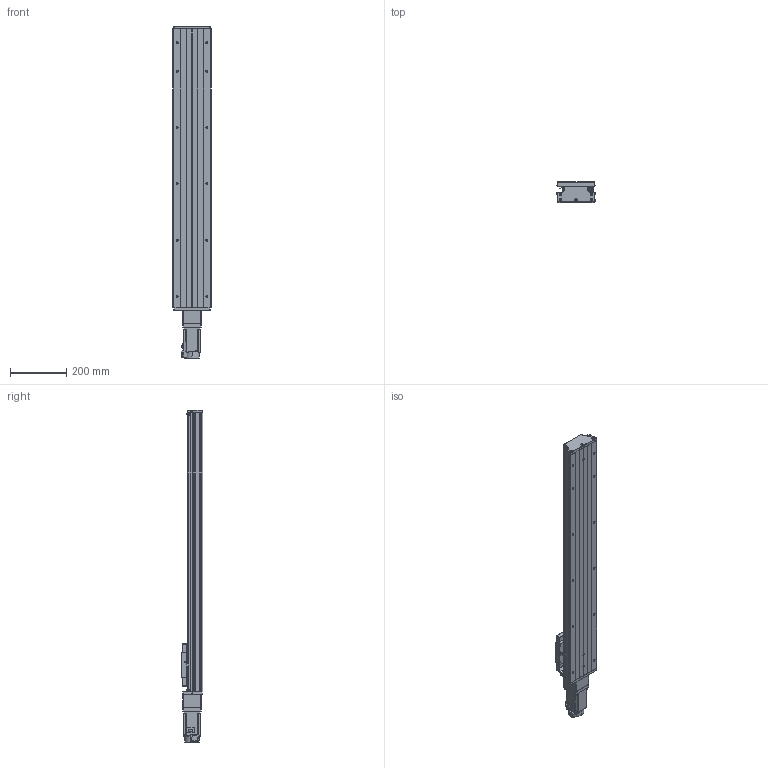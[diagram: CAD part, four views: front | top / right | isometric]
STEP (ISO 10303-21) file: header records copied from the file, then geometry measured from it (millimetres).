
FILE_DESCRIPTION (( 'STEP AP203' ), '1' );
FILE_NAME ('CTH130-800-BC-M40-C4.step', '2023-06-30T02:34:35', ( '微软用户' ), ( '微软中国' ), 'SwSTEP 2.0', 'SolidWorks 2020', '' );
FILE_SCHEMA (( 'CONFIG_CONTROL_DESIGN' ));
Length unit declared in the file: millimetre
Products named in the file (21): CTHA86-027-1; CTH130-800-BC-M40-C4; GTH14-005; GBT77-2000 M3×3; GBT 70.3-M3℅8; GB1155-6X6; CTH130-031; HG-KN43J-S100; GBT70.1 M5℅16; GBT 70.2-M3¡Á5_M3¡Á6; GTH14-001_800; CTHA60-017; す晦芛蹟隊 M3℅5; CTH130-002_GTH14-002; EE_SX911P_R; CTHA86-006-1_M40; GB T308.1-2013-6.35; CTHA60-016; CTHA86-013; GTH14-004; GBT 70.1-M3℅5
Assembly tree (59 placements, depth 2):
  CTH130-800-BC-M40-C4
    GTH14-001_800
    CTH130-002_GTH14-002
    GB T308.1-2013-6.35  x2
    GTH14-004
    GTH14-005
    GB1155-6X6  x2
    GBT70.1 M5℅16  x10
    CTHA60-017  x3
    EE_SX911P_R  x3
    CTHA60-016  x2
    GBT 70.1-M3℅5  x6
    GBT77-2000 M3×3  x6
    CTH130-031
    GBT 70.2-M3¡Á5_M3¡Á6  x8
    す晦芛蹟隊 M3℅5  x6
    CTHA86-006-1_M40
    CTHA86-013
    CTHA86-027-1
    GBT 70.3-M3℅8  x2
    HG-KN43J-S100
Bounding box: 135 x 76 x 1178.7 mm (x, y, z)
Volume: 5684932 mm3; surface area: 888260 mm2
Topology: 62 solids, 62 shells, 2390 faces, 5705 edges, 3535 vertices
Faces by surface type: plane 1305, cylinder 634, cone 287, torus 120, sphere 24, bspline 20
Entity records: 43988 total; most frequent: CARTESIAN_POINT 9855, DIRECTION 6391, ORIENTED_EDGE 6310, EDGE_CURVE 3155, AXIS2_PLACEMENT_3D 2167, LINE 2057, VECTOR 2057, VERTEX_POINT 1995
